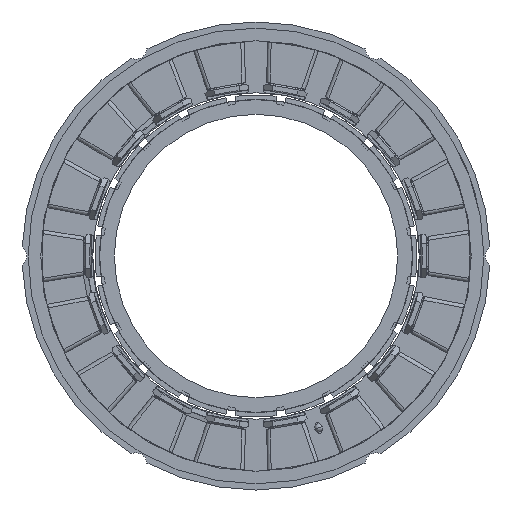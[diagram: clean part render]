
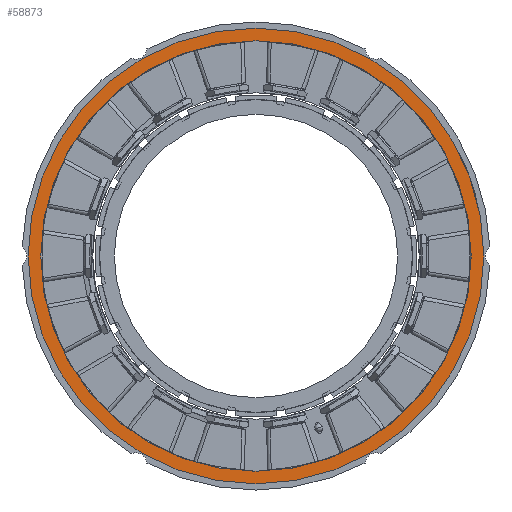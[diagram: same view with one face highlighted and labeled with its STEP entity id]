
A CAD part, left-side view. The second image highlights one B-rep face of the part: STEP entity #58873.
In plain terms, the highlighted planar face has unit normal (-1, 0, 0).
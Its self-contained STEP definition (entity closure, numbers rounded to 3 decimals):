
#7513=CARTESIAN_POINT('',(-4.1,0.,0.));
#7514=DIRECTION('',(-1.,0.,0.));
#7515=DIRECTION('',(0.,0.,-1.));
#7516=AXIS2_PLACEMENT_3D('',#7513,#7514,#7515);
#7518=CARTESIAN_POINT('',(-4.1,0.,0.));
#7519=DIRECTION('',(-1.,0.,0.));
#7520=DIRECTION('',(0.,0.,1.));
#7521=AXIS2_PLACEMENT_3D('',#7518,#7519,#7520);
#7523=CARTESIAN_POINT('',(-4.1,0.,0.));
#7524=DIRECTION('',(1.,0.,0.));
#7525=DIRECTION('',(0.,0.,-1.));
#7526=AXIS2_PLACEMENT_3D('',#7523,#7524,#7525);
#7528=CARTESIAN_POINT('',(-4.1,0.,0.));
#7529=DIRECTION('',(1.,0.,0.));
#7530=DIRECTION('',(0.,0.,1.));
#7531=AXIS2_PLACEMENT_3D('',#7528,#7529,#7530);
#43752=CARTESIAN_POINT('',(-4.1,0.,-34.95));
#43753=CARTESIAN_POINT('',(-4.1,0.,34.95));
#43754=VERTEX_POINT('',#43752);
#43755=VERTEX_POINT('',#43753);
#43760=CARTESIAN_POINT('',(-4.1,0.,-37.));
#43761=CARTESIAN_POINT('',(-4.1,0.,37.));
#43762=VERTEX_POINT('',#43760);
#43763=VERTEX_POINT('',#43761);
#58859=CARTESIAN_POINT('',(-4.1,0.,0.));
#58860=DIRECTION('',(-1.,0.,0.));
#58861=DIRECTION('',(0.,0.,-1.));
#58862=AXIS2_PLACEMENT_3D('',#58859,#58860,#58861);
#58863=PLANE('',#58862);
#58864=ORIENTED_EDGE('',*,*,#58851,.F.);
#58865=ORIENTED_EDGE('',*,*,#58831,.F.);
#58866=EDGE_LOOP('',(#58864,#58865));
#58867=FACE_OUTER_BOUND('',#58866,.F.);
#58868=ORIENTED_EDGE('',*,*,#53893,.F.);
#58870=ORIENTED_EDGE('',*,*,#58869,.F.);
#58871=EDGE_LOOP('',(#58868,#58870));
#58872=FACE_BOUND('',#58871,.F.);
#58873=ADVANCED_FACE('',(#58867,#58872),#58863,.T.);
#7517=CIRCLE('',#7516,37.);
#7522=CIRCLE('',#7521,37.);
#7527=CIRCLE('',#7526,34.95);
#7532=CIRCLE('',#7531,34.95);
#53893=EDGE_CURVE('',#43754,#43755,#7527,.T.);
#58831=EDGE_CURVE('',#43763,#43762,#7522,.T.);
#58851=EDGE_CURVE('',#43762,#43763,#7517,.T.);
#58869=EDGE_CURVE('',#43755,#43754,#7532,.T.);
